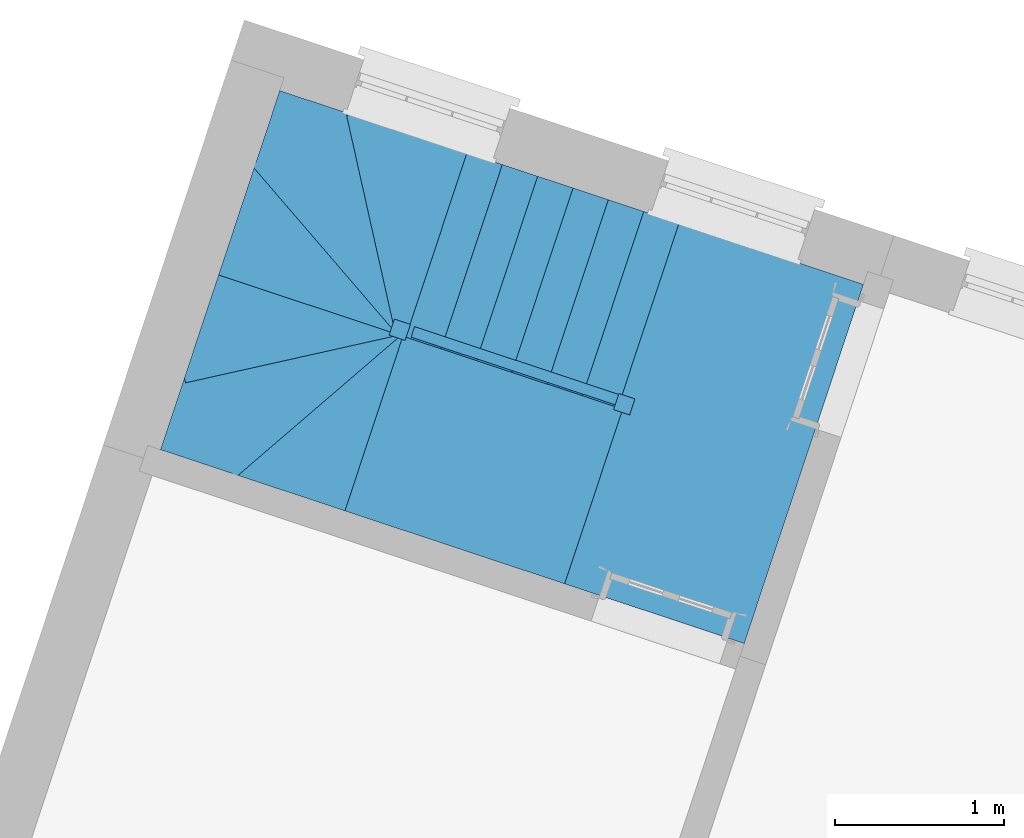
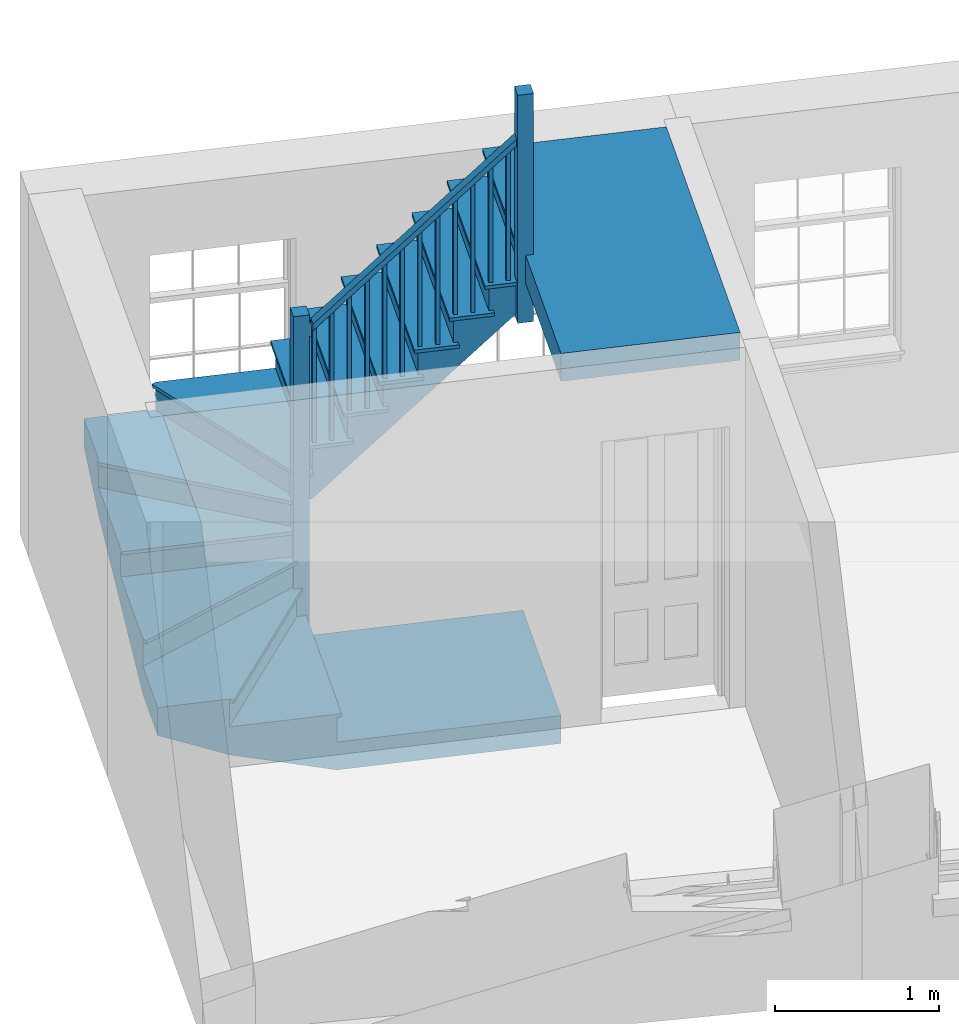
# One storey, part 3 of 3: 1 stair.
"""IFC4 building model written with IfcOpenShell, lengths in metres."""

from ifc_helpers import new_model, si_unit, frame, origin, origin_with_axes, place, context, subcontext, project, spatial, faceted_brep, element, save


model = new_model("IFC4")

# Units and contexts
model_context = context("Model", 3, world=origin_with_axes())
body_context = subcontext(model_context, "Body", "Model", "MODEL_VIEW")
ifc_project = project(units=[si_unit("PLANEANGLEUNIT", "RADIAN"), si_unit("MASSUNIT", "GRAM", prefix="KILO"), si_unit("FORCEUNIT", "NEWTON", prefix="KILO"), si_unit("LENGTHUNIT", "METRE"), si_unit("AREAUNIT", "SQUARE_METRE"), si_unit("VOLUMEUNIT", "CUBIC_METRE")], contexts=[model_context, model_context])

# Sites, building, storey
site_1_placement = place(None, origin_with_axes())
site_1 = spatial("IfcSite", under=ifc_project, at=site_1_placement, Name="Tamar")
site_2_placement = place(site_1_placement, origin_with_axes())
site_2 = spatial("IfcSite", under=site_1, at=site_2_placement, Name="Site plot-18", CompositionType="ELEMENT")
building_placement = place(None, origin_with_axes())
building = spatial("IfcBuilding", under=site_2, at=building_placement, Name="Building plot-18", CompositionType="ELEMENT")
storey_placement = place(None, frame((0.0, 0.0, 29.6), z_axis=(0.0, 0.0, 1.0), x_axis=(1.0, 0.0, 0.0)))
storey = spatial("IfcBuildingStorey", under=building, at=storey_placement, Name="plot-18 1", CompositionType="ELEMENT", Elevation=29.6)

# Stair
stair_placement = place(None, origin())
element("IfcStair", 1, at=stair_placement, inside=storey, Name="Stair", PredefinedType="NOTDEFINED", context=body_context, shape_type="Brep", body=[
    faceted_brep([(265.758559, 294.616347, 32.092308), (266.110563, 295.676787, 32.092308), (265.901766, 295.746096, 32.092308), (265.549762, 294.685655, 32.092308), (265.549762, 294.685655, 31.676923), (265.901766, 295.746096, 31.676923), (266.110563, 295.676787, 31.884615), (265.758559, 294.616347, 31.884615)], [[[0, 1, 2, 3]], [[4, 5, 6, 7]], [[7, 6, 1, 0]], [[1, 6, 5, 2]], [[5, 4, 3, 2]], [[3, 4, 7, 0]]]),
    faceted_brep([(265.873294, 295.755547, 32.067308), (265.873294, 295.755547, 32.092308), (265.901766, 295.746096, 32.067308), (266.139036, 295.667336, 32.092308), (266.139036, 295.667336, 32.067308), (266.110563, 295.676787, 32.067308), (265.901766, 295.746096, 32.092308), (266.110563, 295.676787, 32.092308), (265.511838, 294.666634, 32.092308), (265.549762, 294.685655, 32.092308), (265.549762, 294.685655, 32.067308), (265.511838, 294.666634, 32.067308), (265.77758, 294.578423, 32.092308), (265.758559, 294.616347, 32.092308), (265.758559, 294.616347, 32.067308), (265.77758, 294.578423, 32.067308)], [[[0, 1, 2]], [[3, 4, 5]], [[2, 1, 6]], [[3, 5, 7]], [[6, 1, 8, 9]], [[2, 6, 9, 10]], [[0, 2, 10, 11]], [[1, 0, 11, 8]], [[9, 8, 12, 13]], [[10, 9, 13, 14]], [[11, 10, 14, 15]], [[8, 11, 15, 12]], [[13, 12, 3, 7]], [[14, 13, 7, 5]], [[15, 14, 5, 4]], [[12, 15, 4, 3]]]),
    faceted_brep([(265.549762, 294.685655, 32.992308), (265.573489, 294.677779, 32.992308), (265.581365, 294.701506, 32.992308), (265.557638, 294.709382, 32.992308), (265.557638, 294.709382, 32.092308), (265.581365, 294.701506, 32.092308), (265.573489, 294.677779, 32.092308), (265.549762, 294.685655, 32.092308)], [[[0, 1, 2, 3]], [[4, 5, 6, 7]], [[7, 6, 1, 0]], [[6, 5, 2, 1]], [[5, 4, 3, 2]], [[4, 7, 0, 3]]]),
    faceted_brep([(265.65416, 294.651001, 33.096154), (265.677887, 294.643125, 33.096154), (265.685763, 294.666852, 33.096154), (265.662036, 294.674728, 33.096154), (265.662036, 294.674728, 32.092308), (265.685763, 294.666852, 32.092308), (265.677887, 294.643125, 32.092308), (265.65416, 294.651001, 32.092308)], [[[0, 1, 2, 3]], [[4, 5, 6, 7]], [[7, 6, 1, 0]], [[6, 5, 2, 1]], [[5, 4, 3, 2]], [[4, 7, 0, 3]]]),
    faceted_brep([(265.563939, 294.728364, 32.942308), (265.543461, 294.666674, 32.942308), (265.543461, 294.666674, 32.992308), (265.563939, 294.728364, 32.992308), (265.752258, 294.597365, 33.15), (265.772736, 294.659055, 33.15), (265.772736, 294.659055, 33.2), (265.752258, 294.597365, 33.2)], [[[0, 1, 2, 3]], [[4, 5, 6, 7]], [[0, 5, 4, 1]], [[3, 2, 7, 6]], [[0, 3, 6, 5]], [[2, 1, 4, 7]]]),
    faceted_brep([(265.549762, 294.685655, 31.884615), (265.901766, 295.746096, 31.884615), (265.692969, 295.815404, 31.884615), (265.340964, 294.754964, 31.884615), (265.340964, 294.754964, 31.469231), (265.692969, 295.815404, 31.469231), (265.901766, 295.746096, 31.676923), (265.549762, 294.685655, 31.676923)], [[[0, 1, 2, 3]], [[4, 5, 6, 7]], [[7, 6, 1, 0]], [[1, 6, 5, 2]], [[5, 4, 3, 2]], [[3, 4, 7, 0]]]),
    faceted_brep([(265.664496, 295.824855, 31.859615), (265.664496, 295.824855, 31.884615), (265.692969, 295.815404, 31.859615), (265.930238, 295.736645, 31.884615), (265.930238, 295.736645, 31.859615), (265.901766, 295.746096, 31.859615), (265.692969, 295.815404, 31.884615), (265.901766, 295.746096, 31.884615), (265.303041, 294.735943, 31.884615), (265.340964, 294.754964, 31.884615), (265.340964, 294.754964, 31.859615), (265.303041, 294.735943, 31.859615), (265.568783, 294.647732, 31.884615), (265.549762, 294.685655, 31.884615), (265.549762, 294.685655, 31.859615), (265.568783, 294.647732, 31.859615)], [[[0, 1, 2]], [[3, 4, 5]], [[2, 1, 6]], [[3, 5, 7]], [[6, 1, 8, 9]], [[2, 6, 9, 10]], [[0, 2, 10, 11]], [[1, 0, 11, 8]], [[9, 8, 12, 13]], [[10, 9, 13, 14]], [[11, 10, 14, 15]], [[8, 11, 15, 12]], [[13, 12, 3, 7]], [[14, 13, 7, 5]], [[15, 14, 5, 4]], [[12, 15, 4, 3]]]),
    faceted_brep([(265.340964, 294.754964, 32.784615), (265.364691, 294.747088, 32.784615), (265.372567, 294.770815, 32.784615), (265.34884, 294.778691, 32.784615), (265.34884, 294.778691, 31.884615), (265.372567, 294.770815, 31.884615), (265.364691, 294.747088, 31.884615), (265.340964, 294.754964, 31.884615)], [[[0, 1, 2, 3]], [[4, 5, 6, 7]], [[7, 6, 1, 0]], [[6, 5, 2, 1]], [[5, 4, 3, 2]], [[4, 7, 0, 3]]]),
    faceted_brep([(265.445363, 294.720309, 32.888462), (265.46909, 294.712433, 32.888462), (265.476966, 294.73616, 32.888462), (265.453239, 294.744036, 32.888462), (265.453239, 294.744036, 31.884615), (265.476966, 294.73616, 31.884615), (265.46909, 294.712433, 31.884615), (265.445363, 294.720309, 31.884615)], [[[0, 1, 2, 3]], [[4, 5, 6, 7]], [[7, 6, 1, 0]], [[6, 5, 2, 1]], [[5, 4, 3, 2]], [[4, 7, 0, 3]]]),
    faceted_brep([(265.355141, 294.797672, 32.734615), (265.334664, 294.735982, 32.734615), (265.334664, 294.735982, 32.784615), (265.355141, 294.797672, 32.784615), (265.543461, 294.666674, 32.942308), (265.563939, 294.728364, 32.942308), (265.563939, 294.728364, 32.992308), (265.543461, 294.666674, 32.992308)], [[[0, 1, 2, 3]], [[4, 5, 6, 7]], [[0, 5, 4, 1]], [[3, 2, 7, 6]], [[0, 3, 6, 5]], [[2, 1, 4, 7]]]),
    faceted_brep([(265.340964, 294.754964, 31.676923), (265.692969, 295.815404, 31.676923), (265.484171, 295.884713, 31.676923), (265.132167, 294.824272, 31.676923), (265.132167, 294.824272, 31.261538), (265.484171, 295.884713, 31.261538), (265.692969, 295.815404, 31.469231), (265.340964, 294.754964, 31.469231)], [[[0, 1, 2, 3]], [[4, 5, 6, 7]], [[7, 6, 1, 0]], [[1, 6, 5, 2]], [[5, 4, 3, 2]], [[3, 4, 7, 0]]]),
    faceted_brep([(265.484171, 295.884713, 31.651923), (265.455699, 295.894164, 31.651923), (265.484171, 295.884713, 31.676923), (265.721441, 295.805953, 31.651923), (265.692969, 295.815404, 31.651923), (265.692969, 295.815404, 31.676923), (265.455699, 295.894164, 31.676923), (265.721441, 295.805953, 31.676923), (265.094244, 294.805251, 31.676923), (265.132167, 294.824272, 31.676923), (265.132167, 294.824272, 31.651923), (265.094244, 294.805251, 31.651923), (265.359986, 294.71704, 31.676923), (265.340964, 294.754964, 31.676923), (265.340964, 294.754964, 31.651923), (265.359986, 294.71704, 31.651923)], [[[0, 1, 2]], [[3, 4, 5]], [[1, 6, 2]], [[7, 3, 5]], [[2, 6, 8, 9]], [[0, 2, 9, 10]], [[1, 0, 10, 11]], [[6, 1, 11, 8]], [[9, 8, 12, 13]], [[10, 9, 13, 14]], [[11, 10, 14, 15]], [[8, 11, 15, 12]], [[13, 12, 7, 5]], [[14, 13, 5, 4]], [[15, 14, 4, 3]], [[12, 15, 3, 7]]]),
    faceted_brep([(265.132167, 294.824272, 32.576923), (265.155894, 294.816396, 32.576923), (265.16377, 294.840123, 32.576923), (265.140043, 294.847999, 32.576923), (265.140043, 294.847999, 31.676923), (265.16377, 294.840123, 31.676923), (265.155894, 294.816396, 31.676923), (265.132167, 294.824272, 31.676923)], [[[0, 1, 2, 3]], [[4, 5, 6, 7]], [[7, 6, 1, 0]], [[6, 5, 2, 1]], [[5, 4, 3, 2]], [[4, 7, 0, 3]]]),
    faceted_brep([(265.236566, 294.789618, 32.680769), (265.260293, 294.781742, 32.680769), (265.268169, 294.805469, 32.680769), (265.244442, 294.813345, 32.680769), (265.244442, 294.813345, 31.676923), (265.268169, 294.805469, 31.676923), (265.260293, 294.781742, 31.676923), (265.236566, 294.789618, 31.676923)], [[[0, 1, 2, 3]], [[4, 5, 6, 7]], [[7, 6, 1, 0]], [[6, 5, 2, 1]], [[5, 4, 3, 2]], [[4, 7, 0, 3]]]),
    faceted_brep([(265.146344, 294.866981, 32.526923), (265.125866, 294.805291, 32.526923), (265.125866, 294.805291, 32.576923), (265.146344, 294.866981, 32.576923), (265.334664, 294.735982, 32.734615), (265.355141, 294.797672, 32.734615), (265.355141, 294.797672, 32.784615), (265.334664, 294.735982, 32.784615)], [[[0, 1, 2, 3]], [[4, 5, 6, 7]], [[0, 5, 4, 1]], [[3, 2, 7, 6]], [[0, 3, 6, 5]], [[2, 1, 4, 7]]]),
    faceted_brep([(265.132167, 294.824272, 31.469231), (265.484171, 295.884713, 31.469231), (265.275374, 295.954021, 31.469231), (264.92337, 294.893581, 31.469231), (264.92337, 294.893581, 31.053846), (265.275374, 295.954021, 31.053846), (265.484171, 295.884713, 31.261538), (265.132167, 294.824272, 31.261538)], [[[0, 1, 2, 3]], [[4, 5, 6, 7]], [[7, 6, 1, 0]], [[1, 6, 5, 2]], [[5, 4, 3, 2]], [[3, 4, 7, 0]]]),
    faceted_brep([(265.275374, 295.954021, 31.444231), (265.246902, 295.963472, 31.444231), (265.275374, 295.954021, 31.469231), (265.512644, 295.875262, 31.444231), (265.484171, 295.884713, 31.444231), (265.484171, 295.884713, 31.469231), (265.246902, 295.963472, 31.469231), (265.512644, 295.875262, 31.469231), (264.885446, 294.87456, 31.469231), (264.92337, 294.893581, 31.469231), (264.92337, 294.893581, 31.444231), (264.885446, 294.87456, 31.444231), (265.151188, 294.786349, 31.469231), (265.132167, 294.824272, 31.469231), (265.132167, 294.824272, 31.444231), (265.151188, 294.786349, 31.444231)], [[[0, 1, 2]], [[3, 4, 5]], [[1, 6, 2]], [[7, 3, 5]], [[2, 6, 8, 9]], [[0, 2, 9, 10]], [[1, 0, 10, 11]], [[6, 1, 11, 8]], [[9, 8, 12, 13]], [[10, 9, 13, 14]], [[11, 10, 14, 15]], [[8, 11, 15, 12]], [[13, 12, 7, 5]], [[14, 13, 5, 4]], [[15, 14, 4, 3]], [[12, 15, 3, 7]]]),
    faceted_brep([(264.92337, 294.893581, 32.369231), (264.947097, 294.885705, 32.369231), (264.954973, 294.909432, 32.369231), (264.931246, 294.917308, 32.369231), (264.931246, 294.917308, 31.469231), (264.954973, 294.909432, 31.469231), (264.947097, 294.885705, 31.469231), (264.92337, 294.893581, 31.469231)], [[[0, 1, 2, 3]], [[4, 5, 6, 7]], [[7, 6, 1, 0]], [[6, 5, 2, 1]], [[5, 4, 3, 2]], [[4, 7, 0, 3]]]),
    faceted_brep([(265.027768, 294.858926, 32.473077), (265.051495, 294.851051, 32.473077), (265.059371, 294.874777, 32.473077), (265.035644, 294.882653, 32.473077), (265.035644, 294.882653, 31.469231), (265.059371, 294.874777, 31.469231), (265.051495, 294.851051, 31.469231), (265.027768, 294.858926, 31.469231)], [[[0, 1, 2, 3]], [[4, 5, 6, 7]], [[7, 6, 1, 0]], [[6, 5, 2, 1]], [[5, 4, 3, 2]], [[4, 7, 0, 3]]]),
    faceted_brep([(264.937546, 294.936289, 32.319231), (264.917069, 294.874599, 32.319231), (264.917069, 294.874599, 32.369231), (264.937546, 294.936289, 32.369231), (265.125866, 294.805291, 32.526923), (265.146344, 294.866981, 32.526923), (265.146344, 294.866981, 32.576923), (265.125866, 294.805291, 32.576923)], [[[0, 1, 2, 3]], [[4, 5, 6, 7]], [[0, 5, 4, 1]], [[3, 2, 7, 6]], [[0, 3, 6, 5]], [[2, 1, 4, 7]]]),
    faceted_brep([(264.92337, 294.893581, 31.261538), (265.275374, 295.954021, 31.261538), (265.066577, 296.02333, 31.261538), (264.714572, 294.962889, 31.261538), (264.714572, 294.962889, 30.846154), (265.066577, 296.02333, 30.846154), (265.275374, 295.954021, 31.053846), (264.92337, 294.893581, 31.053846)], [[[0, 1, 2, 3]], [[4, 5, 6, 7]], [[7, 6, 1, 0]], [[1, 6, 5, 2]], [[5, 4, 3, 2]], [[3, 4, 7, 0]]]),
    faceted_brep([(265.066577, 296.02333, 31.236538), (265.038104, 296.032781, 31.236538), (265.066577, 296.02333, 31.261538), (265.303846, 295.94457, 31.236538), (265.275374, 295.954021, 31.236538), (265.275374, 295.954021, 31.261538), (265.038104, 296.032781, 31.261538), (265.303846, 295.94457, 31.261538), (264.676649, 294.943868, 31.261538), (264.714572, 294.962889, 31.261538), (264.714572, 294.962889, 31.236538), (264.676649, 294.943868, 31.236538), (264.942391, 294.855657, 31.261538), (264.92337, 294.893581, 31.261538), (264.92337, 294.893581, 31.236538), (264.942391, 294.855657, 31.236538)], [[[0, 1, 2]], [[3, 4, 5]], [[1, 6, 2]], [[7, 3, 5]], [[2, 6, 8, 9]], [[0, 2, 9, 10]], [[1, 0, 10, 11]], [[6, 1, 11, 8]], [[9, 8, 12, 13]], [[10, 9, 13, 14]], [[11, 10, 14, 15]], [[8, 11, 15, 12]], [[13, 12, 7, 5]], [[14, 13, 5, 4]], [[15, 14, 4, 3]], [[12, 15, 3, 7]]]),
    faceted_brep([(264.714572, 294.962889, 32.161538), (264.738299, 294.955013, 32.161538), (264.746175, 294.97874, 32.161538), (264.722448, 294.986616, 32.161538), (264.722448, 294.986616, 31.261538), (264.746175, 294.97874, 31.261538), (264.738299, 294.955013, 31.261538), (264.714572, 294.962889, 31.261538)], [[[0, 1, 2, 3]], [[4, 5, 6, 7]], [[7, 6, 1, 0]], [[6, 5, 2, 1]], [[5, 4, 3, 2]], [[4, 7, 0, 3]]]),
    faceted_brep([(264.818971, 294.928235, 32.265385), (264.842698, 294.920359, 32.265385), (264.850574, 294.944086, 32.265385), (264.826847, 294.951962, 32.265385), (264.826847, 294.951962, 31.261538), (264.850574, 294.944086, 31.261538), (264.842698, 294.920359, 31.261538), (264.818971, 294.928235, 31.261538)], [[[0, 1, 2, 3]], [[4, 5, 6, 7]], [[7, 6, 1, 0]], [[6, 5, 2, 1]], [[5, 4, 3, 2]], [[4, 7, 0, 3]]]),
    faceted_brep([(264.728749, 295.005598, 32.111538), (264.708272, 294.943908, 32.111538), (264.708272, 294.943908, 32.161538), (264.728749, 295.005598, 32.161538), (264.917069, 294.874599, 32.319231), (264.937546, 294.936289, 32.319231), (264.937546, 294.936289, 32.369231), (264.917069, 294.874599, 32.369231)], [[[0, 1, 2, 3]], [[4, 5, 6, 7]], [[0, 5, 4, 1]], [[3, 2, 7, 6]], [[0, 3, 6, 5]], [[2, 1, 4, 7]]]),
    faceted_brep([(264.714572, 294.962889, 31.053846), (265.066577, 296.02333, 31.053846), (264.857779, 296.092638, 31.053846), (264.505775, 295.032198, 31.053846), (264.505775, 295.032198, 30.638462), (264.857779, 296.092638, 30.638462), (265.066577, 296.02333, 30.846154), (264.714572, 294.962889, 30.846154)], [[[0, 1, 2, 3]], [[4, 5, 6, 7]], [[7, 6, 1, 0]], [[1, 6, 5, 2]], [[5, 4, 3, 2]], [[3, 4, 7, 0]]]),
    faceted_brep([(264.829307, 296.102089, 31.028846), (264.829307, 296.102089, 31.053846), (264.857779, 296.092638, 31.028846), (265.095049, 296.013879, 31.053846), (265.095049, 296.013879, 31.028846), (265.066577, 296.02333, 31.028846), (264.857779, 296.092638, 31.053846), (265.066577, 296.02333, 31.053846), (264.467852, 295.013177, 31.053846), (264.505775, 295.032198, 31.053846), (264.505775, 295.032198, 31.028846), (264.467852, 295.013177, 31.028846), (264.733594, 294.924966, 31.053846), (264.714572, 294.962889, 31.053846), (264.714572, 294.962889, 31.028846), (264.733594, 294.924966, 31.028846)], [[[0, 1, 2]], [[3, 4, 5]], [[2, 1, 6]], [[3, 5, 7]], [[6, 1, 8, 9]], [[2, 6, 9, 10]], [[0, 2, 10, 11]], [[1, 0, 11, 8]], [[9, 8, 12, 13]], [[10, 9, 13, 14]], [[11, 10, 14, 15]], [[8, 11, 15, 12]], [[13, 12, 3, 7]], [[14, 13, 7, 5]], [[15, 14, 5, 4]], [[12, 15, 4, 3]]]),
    faceted_brep([(264.505775, 295.032198, 31.953846), (264.529502, 295.024322, 31.953846), (264.537378, 295.048049, 31.953846), (264.513651, 295.055925, 31.953846), (264.513651, 295.055925, 31.053846), (264.537378, 295.048049, 31.053846), (264.529502, 295.024322, 31.053846), (264.505775, 295.032198, 31.053846)], [[[0, 1, 2, 3]], [[4, 5, 6, 7]], [[7, 6, 1, 0]], [[6, 5, 2, 1]], [[5, 4, 3, 2]], [[4, 7, 0, 3]]]),
    faceted_brep([(264.610174, 294.997544, 32.057692), (264.633901, 294.989668, 32.057692), (264.641777, 295.013395, 32.057692), (264.61805, 295.02127, 32.057692), (264.61805, 295.02127, 31.053846), (264.641777, 295.013395, 31.053846), (264.633901, 294.989668, 31.053846), (264.610174, 294.997544, 31.053846)], [[[0, 1, 2, 3]], [[4, 5, 6, 7]], [[7, 6, 1, 0]], [[6, 5, 2, 1]], [[5, 4, 3, 2]], [[4, 7, 0, 3]]]),
    faceted_brep([(264.519952, 295.074906, 31.903846), (264.499474, 295.013216, 31.903846), (264.499474, 295.013216, 31.953846), (264.519952, 295.074906, 31.953846), (264.708272, 294.943908, 32.111538), (264.728749, 295.005598, 32.111538), (264.728749, 295.005598, 32.161538), (264.708272, 294.943908, 32.161538)], [[[0, 1, 2, 3]], [[4, 5, 6, 7]], [[0, 5, 4, 1]], [[3, 2, 7, 6]], [[0, 3, 6, 5]], [[2, 1, 4, 7]]]),
    faceted_brep([(264.505775, 295.032198, 30.846154), (264.857779, 296.092638, 30.846154), (264.78397, 296.117139, 30.846154), (264.431965, 295.056698, 30.846154), (264.431965, 295.056698, 30.638462), (264.78397, 296.117139, 30.638462), (264.857779, 296.092638, 30.638462), (264.505775, 295.032198, 30.638462)], [[[0, 1, 2, 3]], [[4, 5, 6, 7]], [[7, 6, 1, 0]], [[6, 5, 2, 1]], [[5, 4, 3, 2]], [[4, 7, 0, 3]]]),
    faceted_brep([(264.431965, 295.056698, 30.821154), (264.422514, 295.028226, 30.821154), (264.431965, 295.056698, 30.846154), (264.496324, 295.003725, 30.821154), (264.505775, 295.032198, 30.821154), (264.505775, 295.032198, 30.846154), (264.422514, 295.028226, 30.846154), (264.496324, 295.003725, 30.846154)], [[[0, 1, 2]], [[3, 4, 5]], [[1, 6, 2]], [[7, 3, 5]], [[2, 6, 7, 5]], [[0, 2, 5, 4]], [[1, 0, 4, 3]], [[6, 1, 3, 7]]]),
    faceted_brep([(264.36876, 295.024996, 32.046154), (264.463667, 294.993492, 32.046154), (264.495171, 295.0884, 32.046154), (264.400263, 295.119904, 32.046154), (264.400263, 295.119904, 30.846154), (264.495171, 295.0884, 30.846154), (264.463667, 294.993492, 30.846154), (264.36876, 295.024996, 30.846154)], [[[0, 1, 2, 3]], [[4, 5, 6, 7]], [[7, 6, 1, 0]], [[6, 5, 2, 1]], [[5, 4, 3, 2]], [[4, 7, 0, 3]]]),
    faceted_brep([(264.78397, 296.117139, 30.846154), (264.147705, 296.328341, 30.846154), (264.431965, 295.056698, 30.846154), (264.431965, 295.056698, 30.430769), (264.147705, 296.328341, 30.430769), (264.78397, 296.117139, 30.638462)], [[[0, 1, 2]], [[3, 4, 5]], [[0, 5, 4, 1]], [[4, 3, 2, 1]], [[2, 3, 5, 0]]]),
    faceted_brep([(264.118428, 296.321797, 30.821154), (264.118428, 296.321797, 30.846154), (264.147705, 296.328341, 30.821154), (264.402688, 295.050154, 30.846154), (264.402688, 295.050154, 30.821154), (264.431965, 295.056698, 30.821154), (264.147705, 296.328341, 30.846154), (264.431965, 295.056698, 30.846154)], [[[0, 1, 2]], [[3, 4, 5]], [[2, 1, 6]], [[3, 5, 7]], [[6, 1, 3, 7]], [[2, 6, 7, 5]], [[0, 2, 5, 4]], [[1, 0, 4, 3]]]),
    faceted_brep([(264.147705, 296.328341, 30.638462), (263.723529, 296.469143, 30.638462), (263.582727, 296.044967, 30.638462), (264.431965, 295.056698, 30.638462), (264.431965, 295.056698, 30.223077), (263.582727, 296.044967, 30.223077), (263.723529, 296.469143, 30.430769), (264.147705, 296.328341, 30.430769)], [[[0, 1, 2, 3]], [[4, 5, 6, 7]], [[7, 6, 1, 0]], [[1, 6, 5, 2]], [[5, 4, 3, 2]], [[3, 4, 7, 0]]]),
    faceted_brep([(263.582727, 296.044967, 30.613462), (263.559974, 296.025415, 30.613462), (263.582727, 296.044967, 30.638462), (264.409212, 295.037146, 30.613462), (264.431965, 295.056698, 30.613462), (264.431965, 295.056698, 30.638462), (263.559974, 296.025415, 30.638462), (264.409212, 295.037146, 30.638462)], [[[0, 1, 2]], [[3, 4, 5]], [[1, 6, 2]], [[7, 3, 5]], [[2, 6, 7, 5]], [[0, 2, 5, 4]], [[1, 0, 4, 3]], [[6, 1, 3, 7]]]),
    faceted_brep([(263.582727, 296.044967, 30.430769), (263.371525, 295.408703, 30.430769), (264.431965, 295.056698, 30.430769), (264.431965, 295.056698, 30.015385), (263.371525, 295.408703, 30.015385), (263.582727, 296.044967, 30.223077)], [[[0, 1, 2]], [[3, 4, 5]], [[0, 5, 4, 1]], [[4, 3, 2, 1]], [[2, 3, 5, 0]]]),
    faceted_brep([(263.371525, 295.408703, 30.405769), (263.362074, 295.38023, 30.405769), (263.371525, 295.408703, 30.430769), (264.422514, 295.028226, 30.405769), (264.431965, 295.056698, 30.405769), (264.431965, 295.056698, 30.430769), (263.362074, 295.38023, 30.430769), (264.422514, 295.028226, 30.430769)], [[[0, 1, 2]], [[3, 4, 5]], [[1, 6, 2]], [[7, 3, 5]], [[2, 6, 7, 5]], [[0, 2, 5, 4]], [[1, 0, 4, 3]], [[6, 1, 3, 7]]]),
    faceted_brep([(264.36876, 295.024996, 30.846154), (264.463667, 294.993492, 30.846154), (264.495171, 295.0884, 30.846154), (264.400263, 295.119904, 30.846154), (264.400263, 295.119904, 29.930769), (264.495171, 295.0884, 29.930769), (264.463667, 294.993492, 29.930769), (264.36876, 295.024996, 29.930769)], [[[0, 1, 2, 3]], [[4, 5, 6, 7]], [[7, 6, 1, 0]], [[6, 5, 2, 1]], [[5, 4, 3, 2]], [[4, 7, 0, 3]]]),
    faceted_brep([(264.431965, 295.056698, 30.015385), (263.371525, 295.408703, 30.015385), (263.371525, 295.408703, 30.223077), (264.431965, 295.056698, 30.223077)], [[[0, 1, 2, 3]], [[1, 0, 3, 2]]]),
    faceted_brep([(264.431965, 295.056698, 30.198077), (264.458798, 295.043282, 30.198077), (264.431965, 295.056698, 30.223077), (264.458798, 295.043282, 30.223077)], [[[0, 1, 2]], [[1, 0, 2]], [[1, 3, 2]], [[3, 1, 2]]]),
    faceted_brep([(264.463667, 294.993492, 31.423077), (264.495171, 295.0884, 31.423077), (264.400263, 295.119904, 31.423077), (264.36876, 295.024996, 31.423077), (264.36876, 295.024996, 30.223077), (264.400263, 295.119904, 30.223077), (264.495171, 295.0884, 30.223077), (264.463667, 294.993492, 30.223077)], [[[0, 1, 2, 3]], [[4, 5, 6, 7]], [[7, 6, 1, 0]], [[6, 5, 2, 1]], [[5, 4, 3, 2]], [[4, 7, 0, 3]]]),
    faceted_brep([(263.371525, 295.408703, 30.223077), (263.160322, 294.772438, 30.223077), (264.431965, 295.056698, 30.223077), (264.431965, 295.056698, 29.807692), (263.160322, 294.772438, 29.807692), (263.371525, 295.408703, 30.015385)], [[[0, 1, 2]], [[3, 4, 5]], [[0, 5, 4, 1]], [[4, 3, 2, 1]], [[2, 3, 5, 0]]]),
    faceted_brep([(263.160322, 294.772438, 30.198077), (263.166867, 294.743161, 30.198077), (263.160322, 294.772438, 30.223077), (264.43851, 295.027421, 30.198077), (264.431965, 295.056698, 30.198077), (264.431965, 295.056698, 30.223077), (263.166867, 294.743161, 30.223077), (264.43851, 295.027421, 30.223077)], [[[0, 1, 2]], [[3, 4, 5]], [[1, 6, 2]], [[7, 3, 5]], [[2, 6, 7, 5]], [[0, 2, 5, 4]], [[1, 0, 4, 3]], [[6, 1, 3, 7]]]),
    faceted_brep([(263.160322, 294.772438, 30.015385), (263.019521, 294.348262, 30.015385), (263.443697, 294.20746, 30.015385), (264.431965, 295.056698, 30.015385), (264.431965, 295.056698, 29.6), (263.443697, 294.20746, 29.6), (263.019521, 294.348262, 29.807692), (263.160322, 294.772438, 29.807692)], [[[0, 1, 2, 3]], [[4, 5, 6, 7]], [[7, 6, 1, 0]], [[1, 6, 5, 2]], [[5, 4, 3, 2]], [[3, 4, 7, 0]]]),
    faceted_brep([(263.463249, 294.184707, 29.990385), (263.463249, 294.184707, 30.015385), (263.443697, 294.20746, 29.990385), (264.451518, 295.033945, 30.015385), (264.451518, 295.033945, 29.990385), (264.431965, 295.056698, 29.990385), (263.443697, 294.20746, 30.015385), (264.431965, 295.056698, 30.015385)], [[[0, 1, 2]], [[3, 4, 5]], [[2, 1, 6]], [[3, 5, 7]], [[6, 1, 3, 7]], [[2, 6, 7, 5]], [[0, 2, 5, 4]], [[1, 0, 4, 3]]]),
    faceted_brep([(263.443697, 294.20746, 29.807692), (264.079961, 293.996258, 29.807692), (264.431965, 295.056698, 29.807692), (264.431965, 295.056698, 29.392308), (264.079961, 293.996258, 29.392308), (263.443697, 294.20746, 29.6)], [[[0, 1, 2]], [[3, 4, 5]], [[0, 5, 4, 1]], [[4, 3, 2, 1]], [[2, 3, 5, 0]]]),
    faceted_brep([(264.079961, 293.996258, 29.782692), (264.108433, 293.986807, 29.782692), (264.079961, 293.996258, 29.807692), (264.460438, 295.047247, 29.782692), (264.431965, 295.056698, 29.782692), (264.431965, 295.056698, 29.807692), (264.108433, 293.986807, 29.807692), (264.460438, 295.047247, 29.807692)], [[[0, 1, 2]], [[3, 4, 5]], [[1, 6, 2]], [[7, 3, 5]], [[2, 6, 7, 5]], [[0, 2, 5, 4]], [[1, 0, 4, 3]], [[6, 1, 3, 7]]]),
    faceted_brep([(264.463667, 294.993492, 30.223077), (264.495171, 295.0884, 30.223077), (264.400263, 295.119904, 30.223077), (264.36876, 295.024996, 30.223077), (264.36876, 295.024996, 29.307692), (264.400263, 295.119904, 29.307692), (264.495171, 295.0884, 29.307692), (264.463667, 294.993492, 29.307692)], [[[0, 1, 2, 3]], [[4, 5, 6, 7]], [[7, 6, 1, 0]], [[6, 5, 2, 1]], [[5, 4, 3, 2]], [[4, 7, 0, 3]]]),
    faceted_brep([(264.431965, 295.056698, 29.6), (264.079961, 293.996258, 29.6), (265.406555, 293.555906, 29.6), (265.758559, 294.616347, 29.6), (265.758559, 294.616347, 29.392308), (265.406555, 293.555906, 29.392308), (264.079961, 293.996258, 29.392308), (264.431965, 295.056698, 29.392308)], [[[0, 1, 2, 3]], [[4, 5, 6, 7]], [[7, 6, 1, 0]], [[6, 5, 2, 1]], [[5, 4, 3, 2]], [[4, 7, 0, 3]]]),
    faceted_brep([(265.76801, 294.644819, 29.575), (265.76801, 294.644819, 29.6), (265.758559, 294.616347, 29.575), (264.441417, 295.085171, 29.6), (264.441417, 295.085171, 29.575), (264.431965, 295.056698, 29.575), (265.758559, 294.616347, 29.6), (264.431965, 295.056698, 29.6)], [[[0, 1, 2]], [[3, 4, 5]], [[2, 1, 6]], [[3, 5, 7]], [[6, 1, 3, 7]], [[2, 6, 7, 5]], [[0, 2, 5, 4]], [[1, 0, 4, 3]]]),
    faceted_brep([(265.821765, 294.648049, 33.5), (265.726857, 294.679553, 33.5), (265.695353, 294.584645, 33.5), (265.790261, 294.553141, 33.5), (265.790261, 294.553141, 32.3), (265.695353, 294.584645, 32.3), (265.726857, 294.679553, 32.3), (265.821765, 294.648049, 32.3)], [[[0, 1, 2, 3]], [[4, 5, 6, 7]], [[7, 6, 1, 0]], [[6, 5, 2, 1]], [[5, 4, 3, 2]], [[4, 7, 0, 3]]]),
    faceted_brep([(265.758559, 294.616347, 32.3), (265.406555, 293.555906, 32.3), (266.466995, 293.203902, 32.3), (266.819, 294.264342, 32.3), (266.819, 294.264342, 32.092308), (266.466995, 293.203902, 32.092308), (265.406555, 293.555906, 32.092308), (265.758559, 294.616347, 32.092308)], [[[0, 1, 2, 3]], [[4, 5, 6, 7]], [[7, 6, 1, 0]], [[6, 5, 2, 1]], [[5, 4, 3, 2]], [[4, 7, 0, 3]]]),
    faceted_brep([(266.828451, 294.292815, 32.275), (266.828451, 294.292815, 32.3), (266.819, 294.264342, 32.275), (265.76801, 294.644819, 32.3), (265.76801, 294.644819, 32.275), (265.758559, 294.616347, 32.275), (266.819, 294.264342, 32.3), (265.758559, 294.616347, 32.3)], [[[0, 1, 2]], [[3, 4, 5]], [[2, 1, 6]], [[3, 5, 7]], [[6, 1, 3, 7]], [[2, 6, 7, 5]], [[0, 2, 5, 4]], [[1, 0, 4, 3]]]),
    faceted_brep([(265.821765, 294.648049, 32.3), (265.726857, 294.679553, 32.3), (265.695353, 294.584645, 32.3), (265.790261, 294.553141, 32.3), (265.790261, 294.553141, 31.8), (265.695353, 294.584645, 31.8), (265.726857, 294.679553, 31.8), (265.821765, 294.648049, 31.8)], [[[0, 1, 2, 3]], [[4, 5, 6, 7]], [[7, 6, 1, 0]], [[6, 5, 2, 1]], [[5, 4, 3, 2]], [[4, 7, 0, 3]]]),
    faceted_brep([(265.758559, 294.616347, 32.092308), (266.819, 294.264342, 32.092308), (266.819, 294.264342, 32.3), (265.758559, 294.616347, 32.3)], [[[0, 1, 2, 3]], [[1, 0, 3, 2]]]),
    faceted_brep([(265.729455, 294.623623, 32.275), (265.729455, 294.623623, 32.3), (265.758559, 294.616347, 32.275), (265.758559, 294.616347, 32.3)], [[[0, 1, 2]], [[1, 0, 2]], [[2, 1, 3]], [[1, 2, 3]]]),
    faceted_brep([(265.726857, 294.679553, 33.5), (265.695353, 294.584645, 33.5), (265.790261, 294.553141, 33.5), (265.821765, 294.648049, 33.5), (265.821765, 294.648049, 32.3), (265.790261, 294.553141, 32.3), (265.695353, 294.584645, 32.3), (265.726857, 294.679553, 32.3)], [[[0, 1, 2, 3]], [[4, 5, 6, 7]], [[7, 6, 1, 0]], [[6, 5, 2, 1]], [[5, 4, 3, 2]], [[4, 7, 0, 3]]]),
    faceted_brep([(265.758559, 294.616347, 32.3), (266.819, 294.264342, 32.3), (267.171004, 295.324783, 32.3), (266.110563, 295.676787, 32.3), (266.110563, 295.676787, 32.092308), (267.171004, 295.324783, 32.092308), (266.819, 294.264342, 32.092308), (265.758559, 294.616347, 32.092308)], [[[0, 1, 2, 3]], [[4, 5, 6, 7]], [[7, 6, 1, 0]], [[6, 5, 2, 1]], [[5, 4, 3, 2]], [[4, 7, 0, 3]]]),
    faceted_brep([(266.082091, 295.686238, 32.275), (266.082091, 295.686238, 32.3), (266.110563, 295.676787, 32.275), (265.730087, 294.625798, 32.3), (265.730087, 294.625798, 32.275), (265.758559, 294.616347, 32.275), (266.110563, 295.676787, 32.3), (265.758559, 294.616347, 32.3)], [[[0, 1, 2]], [[3, 4, 5]], [[2, 1, 6]], [[3, 5, 7]], [[6, 1, 3, 7]], [[2, 6, 7, 5]], [[0, 2, 5, 4]], [[1, 0, 4, 3]]]),
    faceted_brep([(265.726857, 294.679553, 32.3), (265.695353, 294.584645, 32.3), (265.790261, 294.553141, 32.3), (265.821765, 294.648049, 32.3), (265.821765, 294.648049, 31.8), (265.790261, 294.553141, 31.8), (265.695353, 294.584645, 31.8), (265.726857, 294.679553, 31.8)], [[[0, 1, 2, 3]], [[4, 5, 6, 7]], [[7, 6, 1, 0]], [[6, 5, 2, 1]], [[5, 4, 3, 2]], [[4, 7, 0, 3]]]),
])

save(model, "model.ifc")
